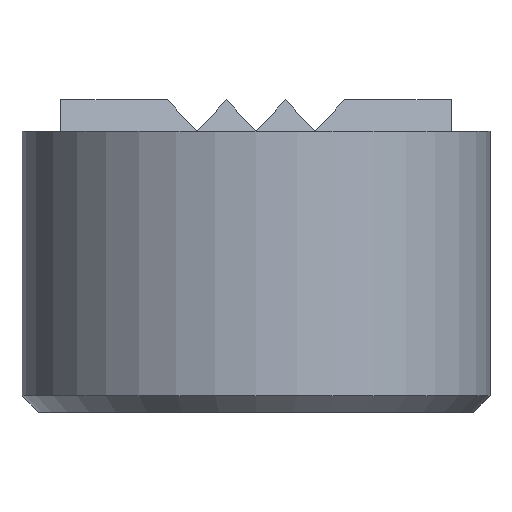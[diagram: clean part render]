
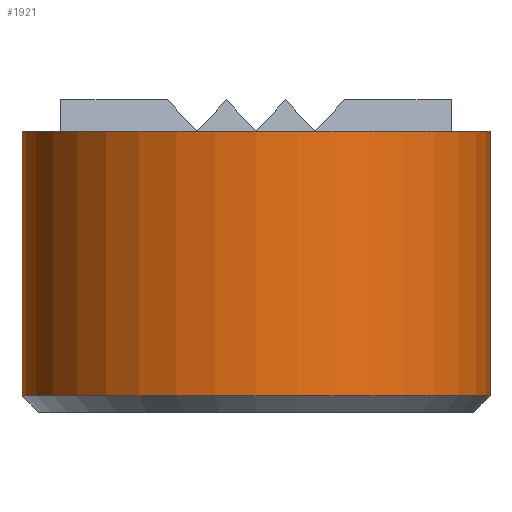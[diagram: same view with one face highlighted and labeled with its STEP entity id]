
A CAD part, front view. The second image highlights one B-rep face of the part: STEP entity #1921.
In plain terms, the highlighted cylindrical face has radius 7.138 mm (diameter 14.275 mm), a partial arc.
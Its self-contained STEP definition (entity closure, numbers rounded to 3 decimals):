
#1759=CARTESIAN_POINT('',(-7.138,-1.118,-3.297));
#1760=VERTEX_POINT('',#1759);
#1778=CARTESIAN_POINT('',(7.138,-1.118,-3.297));
#1779=VERTEX_POINT('',#1778);
#1786=CARTESIAN_POINT('',(0.0,-1.118,-3.297));
#1787=DIRECTION('',(0.0,0.0,-1.0));
#1788=DIRECTION('',(1.0,0.0,0.0));
#1789=AXIS2_PLACEMENT_3D('',#1786,#1787,#1788);
#1790=CIRCLE('',#1789,7.138);
#1791=EDGE_CURVE('',#1779,#1760,#1790,.T.);
#1879=CARTESIAN_POINT('',(-7.138,-1.118,4.765));
#1880=VERTEX_POINT('',#1879);
#1881=CARTESIAN_POINT('',(-7.138,-1.118,-3.297));
#1882=DIRECTION('',(0.0,0.0,1.0));
#1883=VECTOR('',#1882,8.062);
#1884=LINE('',#1881,#1883);
#1885=EDGE_CURVE('',#1760,#1880,#1884,.T.);
#1897=CARTESIAN_POINT('',(0.0,-1.118,-4.765));
#1898=DIRECTION('',(0.0,0.0,1.0));
#1899=DIRECTION('',(1.0,0.0,0.0));
#1900=AXIS2_PLACEMENT_3D('',#1897,#1898,#1899);
#1901=CYLINDRICAL_SURFACE('',#1900,7.138);
#1902=ORIENTED_EDGE('',*,*,#1791,.F.);
#1903=CARTESIAN_POINT('',(7.138,-1.118,4.765));
#1904=VERTEX_POINT('',#1903);
#1905=CARTESIAN_POINT('',(7.138,-1.118,-3.297));
#1906=DIRECTION('',(0.0,0.0,1.0));
#1907=VECTOR('',#1906,8.062);
#1908=LINE('',#1905,#1907);
#1909=EDGE_CURVE('',#1779,#1904,#1908,.T.);
#1910=ORIENTED_EDGE('',*,*,#1909,.T.);
#1911=CARTESIAN_POINT('',(0.0,-1.118,4.765));
#1912=DIRECTION('',(0.0,0.0,-1.0));
#1913=DIRECTION('',(1.0,0.0,0.0));
#1914=AXIS2_PLACEMENT_3D('',#1911,#1912,#1913);
#1915=CIRCLE('',#1914,7.138);
#1916=EDGE_CURVE('',#1904,#1880,#1915,.T.);
#1917=ORIENTED_EDGE('',*,*,#1916,.T.);
#1918=ORIENTED_EDGE('',*,*,#1885,.F.);
#1919=EDGE_LOOP('',(#1902,#1910,#1917,#1918));
#1920=FACE_OUTER_BOUND('',#1919,.T.);
#1921=ADVANCED_FACE('',(#1920),#1901,.T.);
